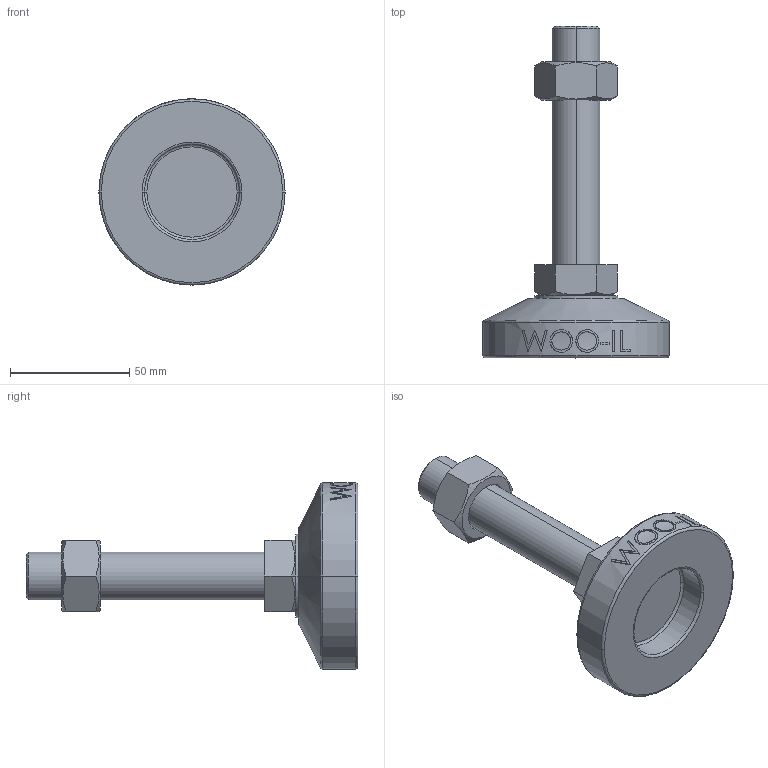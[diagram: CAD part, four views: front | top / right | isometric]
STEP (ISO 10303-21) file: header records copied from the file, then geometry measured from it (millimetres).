
FILE_DESCRIPTION (( 'STEP AP214' ), '1' );
FILE_NAME ('MFZ78-M20-100.step', '2021-01-15T07:08:36', ( '' ), ( '' ), 'SwSTEP 2.0', 'SolidWorks 2019', '' );
FILE_SCHEMA (( 'AUTOMOTIVE_DESIGN' ));
Length unit declared in the file: millimetre
Products named in the file (2): MFZ78-M20-100
Bounding box: 78 x 139 x 78 mm (x, y, z)
Volume: 135847.2 mm3; surface area: 27618.5 mm2
Topology: 3 solids, 3 shells, 106 faces, 247 edges, 158 vertices
Faces by surface type: plane 48, cylinder 18, bspline 16, cone 14, torus 10
Entity records: 4628 total; most frequent: CARTESIAN_POINT 2265, ORIENTED_EDGE 494, DIRECTION 439, EDGE_CURVE 247, AXIS2_PLACEMENT_3D 170, VERTEX_POINT 158, EDGE_LOOP 119, FACE_OUTER_BOUND 106
